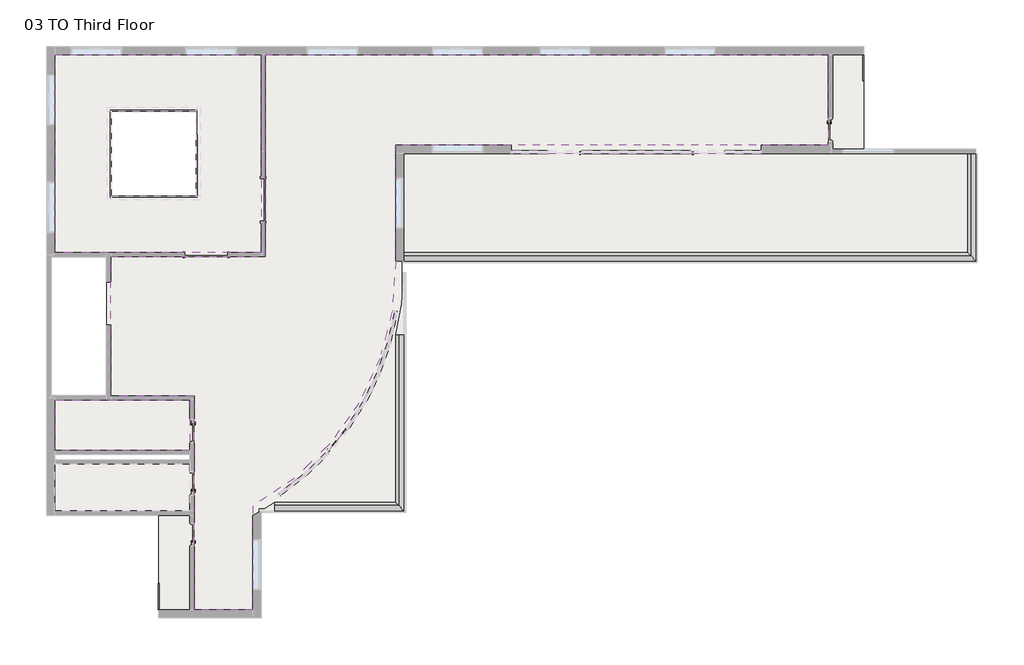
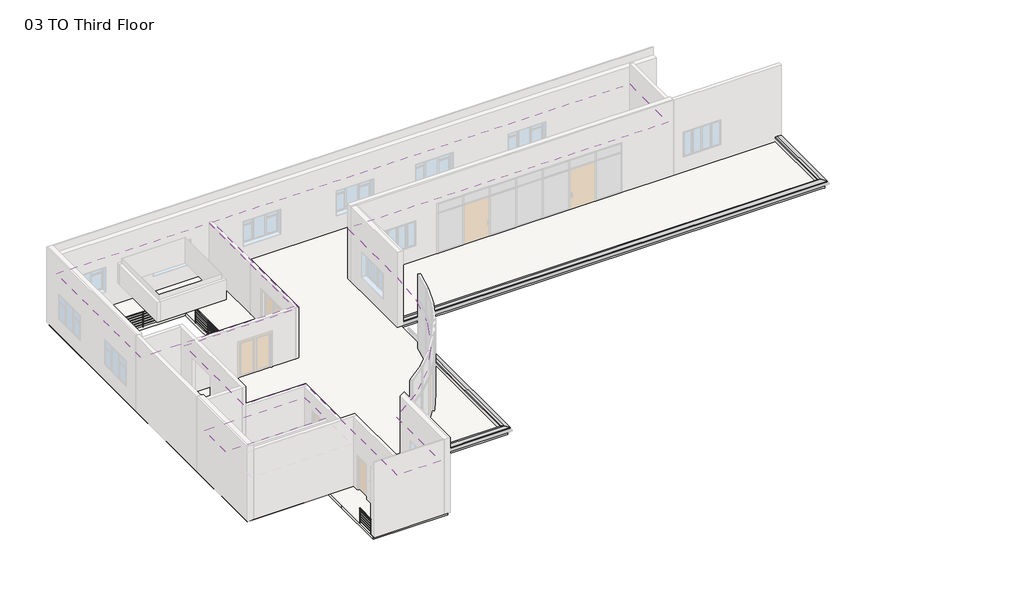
# One storey, part 3 of 3: 4 proxies, 3 coverings, 3 railings, 1 slab.
"""IFC4 building model written with IfcOpenShell, lengths in millimetres."""

from ifc_helpers import new_model, si_unit, point, frame, frame_2d, origin, place, context, project, spatial, polyline, circle_curve, ellipse_curve, trimmed, segment, composite_curve, outline, extrude, faceted_brep, element, save
from ifc_brep_helpers import plane_surface, cylinder_surface, advanced_brep

model = new_model("IFC4")

# Units and contexts
model_context = context("Model", 3, world=origin())
ifc_project = project(units=[si_unit("LENGTHUNIT", "METRE", prefix="MILLI")], contexts=[model_context])

# Site, building, storey
site = spatial("IfcSite", under=ifc_project)
building = spatial("IfcBuilding", under=site)
storey = spatial("IfcBuildingStorey", under=building, Name="03 TO Third Floor", Elevation=9144.0)

# Proxies
placement = place(None, origin())
element("IfcBuildingElementProxy", 1, Name="Wall Sweeps", at=placement, inside=storey, context=model_context, shape_type="Brep", body=[
    faceted_brep([(-4282.7273699, 106.1746638, 9410.7), (-4282.7273699, 334.7746638, 9448.8), (-4282.7273699, 461.7746638, 9410.7), (-4282.7273699, 461.7746638, 9347.2), (-4282.7273699, 106.1746638, 9347.2), (20101.2726301, 106.1746638, 9410.7), (20101.2726301, 106.1746638, 9347.2), (19745.6726301, 461.7746638, 9347.2), (19745.6726301, 461.7746638, 9410.7), (19872.6726301, 334.7746638, 9448.8)], [[[0, 1, 2, 3, 4]], [[5, 6, 7, 8, 9]], [[0, 4, 6, 5]], [[4, 3, 7, 6]], [[3, 2, 8, 7]], [[2, 1, 9, 8]], [[1, 0, 5, 9]]]),
])
element("IfcBuildingElementProxy", 2, Name="Wall Sweeps", at=placement, inside=storey, context=model_context, shape_type="Brep", body=[
    faceted_brep([(20101.2726301, 106.1746638, 9410.7), (19872.6726301, 334.7746638, 9448.8), (19745.6726301, 461.7746638, 9410.7), (19745.6726301, 461.7746638, 9347.2), (20101.2726301, 106.1746638, 9347.2), (20101.2726301, 4678.1746638, 9410.7), (20101.2726301, 4678.1746638, 9347.2), (19745.6726301, 4678.1746638, 9347.2), (19745.6726301, 4678.1746638, 9410.7), (19872.6726301, 4678.1746638, 9448.8), (20101.2726301, 461.7746638, 9347.2)], [[[0, 1, 2, 3, 4]], [[5, 6, 7, 8, 9]], [[0, 4, 10, 6, 5]], [[4, 3, 7, 6, 10]], [[3, 2, 8, 7]], [[2, 1, 9, 8]], [[1, 0, 5, 9]]]),
])
element("IfcBuildingElementProxy", 3, Name="Wall Sweeps", at=placement, inside=storey, context=model_context, shape_type="Brep", body=[
    faceted_brep([(-4282.7273699, -10561.8253362, 9410.7), (-4282.7273699, -10561.8253362, 9347.2), (-4638.3273699, -10206.2253362, 9347.2), (-4638.3273699, -10206.2253362, 9410.7), (-4511.3273699, -10333.2253362, 9448.8), (-9785.748781, -10561.8253362, 9410.7), (-9785.748781, -10333.2253362, 9448.8), (-9785.748781, -10206.2253362, 9410.7), (-9785.748781, -10206.2253362, 9347.2), (-9785.748781, -10561.8253362, 9347.2)], [[[0, 1, 2, 3, 4]], [[5, 6, 7, 8, 9]], [[1, 0, 5, 9]], [[2, 1, 9, 8]], [[3, 2, 8, 7]], [[4, 3, 7, 6]], [[0, 4, 6, 5]]]),
])
element("IfcBuildingElementProxy", 4, Name="Wall Sweeps", at=placement, inside=storey, context=model_context, shape_type="Brep", body=[
    faceted_brep([(-4282.7273699, -10561.8253362, 9410.7), (-4511.3273699, -10333.2253362, 9448.8), (-4638.3273699, -10206.2253362, 9410.7), (-4638.3273699, -10206.2253362, 9347.2), (-4282.7273699, -10561.8253362, 9347.2), (-4282.7273699, -3050.9908912, 9410.7), (-4282.7273699, -3050.9908912, 9347.2), (-4638.3273699, -3050.9908912, 9347.2), (-4638.3273699, -3050.9908912, 9410.7), (-4511.3273699, -3050.9908912, 9448.8), (-4282.7273699, -10206.2253362, 9347.2)], [[[0, 1, 2, 3, 4]], [[5, 6, 7, 8, 9]], [[1, 0, 5, 9]], [[2, 1, 9, 8]], [[3, 2, 8, 7]], [[4, 3, 7, 6, 10]], [[0, 4, 10, 6, 5]]]),
])

# Coverings
element("IfcCovering", 5, ObjectType="610mmx610mm ACT System", at=placement, inside=storey, context=model_context, shape_type="SweptSolid", body=[
    extrude(outline(polyline([(-19167.1273699, -7988.4878362), (-19167.1273699, -5837.4253362), (-16881.1273699, -5837.4253362), (-13407.6773699, -5837.4253362), (-13407.6773699, -7988.4878362), (-19167.1273699, -7988.4878362)])), frame((0.0, 0.0, 11582.4), z_axis=(0.0, 0.0, 1.0), x_axis=(1.0, 0.0, 0.0)), (0.0, 0.0, 1.0), 57.15),
])
element("IfcCovering", 6, ObjectType="GWB on Mtl. Stud", at=placement, inside=storey, context=model_context, shape_type="SweptSolid", body=[
    extrude(outline(composite_curve([segment(polyline([(-10194.5773699, 8894.5746638), (13802.0726301, 8894.5746638), (13802.0726301, 5033.7746638), (-4638.3273699, 5033.7746638), (-4638.3273699, 102.363521)]), True, "CONTINUOUS"), segment(trimmed(circle_curve(frame_2d((-16220.7273699, -147.8253362)), 11585.1018219), [point((-4638.3273699, 102.363521))], [point((-10734.3273699, -10351.4521063))], False, "CARTESIAN"), True, "CONTINUOUS"), segment(polyline([(-10734.3273699, -10351.4521063), (-10734.3273699, -14778.2253362), (-13223.5273699, -14778.2253362), (-13223.5273699, -10663.4253362), (-13223.5273699, -5653.2753362), (-16779.5273699, -5653.2753362), (-16779.5273699, 277.6246638), (-10194.5773699, 277.6246638), (-10194.5773699, 4770.2496638), (-10194.5773699, 8894.5746638)]), True, "CONTINUOUS")], self_intersect=False)), frame((0.0, 0.0, 12192.0), z_axis=(0.0, 0.0, 1.0), x_axis=(1.0, 0.0, 0.0)), (0.0, 0.0, 1.0), 85.725),
])
element("IfcCovering", 7, ObjectType="GWB on Mtl. Stud", at=placement, inside=storey, context=model_context, shape_type="SweptSolid", body=[
    extrude(outline(polyline([(-19167.1273699, 8894.5746638), (-10378.7273699, 8894.5746638), (-10378.7273699, 4770.2496638), (-10378.7273699, 461.7746638), (-16881.1273699, 461.7746638), (-19167.1273699, 461.7746638), (-19167.1273699, 8894.5746638)]), holes=[polyline([(-12972.7023699, 2700.1496638), (-12972.7023699, 6656.1996638), (-16928.7523699, 6656.1996638), (-16928.7523699, 2700.1496638), (-12972.7023699, 2700.1496638)])]), frame((0.0, 0.0, 12192.0), z_axis=(0.0, 0.0, 1.0), x_axis=(1.0, 0.0, 0.0)), (0.0, 0.0, 1.0), 85.725),
])

# Railings
element("IfcRailing", 8, ObjectType="Handrail - Pipe", at=placement, inside=storey, context=model_context, shape_type="SolidModel", body=[
    advanced_brep(
    [(-13140.9773699, 5488.9751825, 10039.35), (-13102.8773699, 5488.9751825, 10039.35), (-13140.9773699, 2868.4246638, 10039.35), (-13102.8773699, 2830.3246638, 10039.35), (-16760.4773699, 2868.4246638, 10039.35), (-16798.5773699, 2830.3246638, 10039.35), (-16760.4773699, 6487.9246638, 10039.35), (-16798.5773699, 6526.0246638, 10039.35), (-13121.9273699, 6487.9246638, 10039.35), (-13121.9273699, 6526.0246638, 10039.35)],
    [
        (0, 1, circle_curve(frame((-13121.9273699, 5488.9751825, 10039.35), z_axis=(0.0, 1.0, 0.0), x_axis=(1.0, 0.0, 0.0)), 19.05)),
        (1, 0, circle_curve(frame((-13121.9273699, 5488.9751825, 10039.35), z_axis=(0.0, 1.0, 0.0), x_axis=(1.0, 0.0, 0.0)), 19.05)),
        (0, 2),
        (2, 3, ellipse_curve(frame((-13121.9273699, 2849.3746638, 10039.35), z_axis=(0.7071067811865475, 0.7071067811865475, 0.0), x_axis=(-0.7071067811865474, 0.7071067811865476, 0.0)), 26.9407684, 19.05)),
        (3, 1),
        (3, 2, ellipse_curve(frame((-13121.9273699, 2849.3746638, 10039.35), z_axis=(0.7071067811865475, 0.7071067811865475, 0.0), x_axis=(-0.7071067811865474, 0.7071067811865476, 0.0)), 26.9407684, 19.05)),
        (2, 4),
        (4, 5, ellipse_curve(frame((-16779.5273699, 2849.3746638, 10039.35), z_axis=(0.7071067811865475, -0.7071067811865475, 0.0), x_axis=(0.7071067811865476, 0.7071067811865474, 0.0)), 26.9407684, 19.05)),
        (5, 3),
        (5, 4, ellipse_curve(frame((-16779.5273699, 2849.3746638, 10039.35), z_axis=(0.7071067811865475, -0.7071067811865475, 0.0), x_axis=(0.7071067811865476, 0.7071067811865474, 0.0)), 26.9407684, 19.05)),
        (4, 6),
        (6, 7, ellipse_curve(frame((-16779.5273699, 6506.9746638, 10039.35), z_axis=(-0.7071067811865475, -0.7071067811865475, 0.0), x_axis=(0.7071067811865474, -0.7071067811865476, 0.0)), 26.9407684, 19.05)),
        (7, 5),
        (7, 6, ellipse_curve(frame((-16779.5273699, 6506.9746638, 10039.35), z_axis=(-0.7071067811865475, -0.7071067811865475, 0.0), x_axis=(0.7071067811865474, -0.7071067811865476, 0.0)), 26.9407684, 19.05)),
        (8, 9, circle_curve(frame((-13121.9273699, 6506.9746638, 10039.35), z_axis=(1.0, 0.0, 0.0), x_axis=(0.0, 1.0, 0.0)), 19.05)),
        (9, 8, circle_curve(frame((-13121.9273699, 6506.9746638, 10039.35), z_axis=(1.0, 0.0, 0.0), x_axis=(0.0, 1.0, 0.0)), 19.05)),
        (6, 8),
        (9, 7),
    ],
    [
        plane_surface(frame((-13121.9273699, 5488.9751825, 10058.4), z_axis=(0.0, 1.0, 0.0), x_axis=(0.0, 0.0, -1.0))),
        cylinder_surface(frame((-13121.9273699, 5488.9751825, 10039.35), z_axis=(0.0, 1.0, 0.0), x_axis=(1.0, 0.0, 0.0)), 19.05),
        cylinder_surface(frame((-13121.9273699, 2849.3746638, 10039.35), z_axis=(1.0, 0.0, 0.0), x_axis=(0.0, -1.0, 0.0)), 19.05),
        cylinder_surface(frame((-16779.5273699, 2849.3746638, 10039.35), z_axis=(0.0, -1.0, 0.0), x_axis=(-1.0, 0.0, 0.0)), 19.05),
        plane_surface(frame((-13121.9273699, 6506.9746638, 10058.4), z_axis=(1.0, 0.0, 0.0), x_axis=(0.0, 1.0, 0.0))),
        cylinder_surface(frame((-16779.5273699, 6506.9746638, 10039.35), z_axis=(-1.0, 0.0, 0.0), x_axis=(0.0, 1.0, 0.0)), 19.05),
    ],
    [
        (0, [[1, 2]]),
        (1, [[-1, 3, 4, 5]]),
        (1, [[-2, -5, 6, -3]]),
        (2, [[-4, 7, 8, 9]]),
        (2, [[-6, -9, 10, -7]]),
        (3, [[-8, 11, 12, 13]]),
        (3, [[-10, -13, 14, -11]]),
        (4, [[15, 16]]),
        (5, [[-12, 17, -16, 18]]),
        (5, [[-14, -18, -15, -17]]),
    ],
),
    advanced_brep(
    [(-13109.2273699, 5488.9751825, 9893.3), (-13134.6273699, 5488.9751825, 9893.3), (-13109.2273699, 2836.6746638, 9893.3), (-13134.6273699, 2862.0746638, 9893.3), (-16792.2273699, 2836.6746638, 9893.3), (-16766.8273699, 2862.0746638, 9893.3), (-16792.2273699, 6519.6746638, 9893.3), (-16766.8273699, 6494.2746638, 9893.3), (-13121.9273699, 6519.6746638, 9893.3), (-13121.9273699, 6494.2746638, 9893.3)],
    [
        (0, 1, circle_curve(frame((-13121.9273699, 5488.9751825, 9893.3), z_axis=(0.0, 1.0, 0.0), x_axis=(-1.0, 0.0, 0.0)), 12.7)),
        (1, 0, circle_curve(frame((-13121.9273699, 5488.9751825, 9893.3), z_axis=(0.0, 1.0, 0.0), x_axis=(-1.0, 0.0, 0.0)), 12.7)),
        (0, 2),
        (2, 3, ellipse_curve(frame((-13121.9273699, 2849.3746638, 9893.3), z_axis=(0.7071067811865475, 0.7071067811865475, 0.0), x_axis=(-0.7071067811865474, 0.7071067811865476, 0.0)), 17.9605122, 12.7)),
        (3, 1),
        (3, 2, ellipse_curve(frame((-13121.9273699, 2849.3746638, 9893.3), z_axis=(0.7071067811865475, 0.7071067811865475, 0.0), x_axis=(-0.7071067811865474, 0.7071067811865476, 0.0)), 17.9605122, 12.7)),
        (2, 4),
        (4, 5, ellipse_curve(frame((-16779.5273699, 2849.3746638, 9893.3), z_axis=(0.7071067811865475, -0.7071067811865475, 0.0), x_axis=(0.7071067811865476, 0.7071067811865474, 0.0)), 17.9605122, 12.7)),
        (5, 3),
        (5, 4, ellipse_curve(frame((-16779.5273699, 2849.3746638, 9893.3), z_axis=(0.7071067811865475, -0.7071067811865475, 0.0), x_axis=(0.7071067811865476, 0.7071067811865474, 0.0)), 17.9605122, 12.7)),
        (4, 6),
        (6, 7, ellipse_curve(frame((-16779.5273699, 6506.9746638, 9893.3), z_axis=(-0.7071067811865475, -0.7071067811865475, 0.0), x_axis=(0.7071067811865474, -0.7071067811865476, 0.0)), 17.9605122, 12.7)),
        (7, 5),
        (7, 6, ellipse_curve(frame((-16779.5273699, 6506.9746638, 9893.3), z_axis=(-0.7071067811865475, -0.7071067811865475, 0.0), x_axis=(0.7071067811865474, -0.7071067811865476, 0.0)), 17.9605122, 12.7)),
        (8, 9, circle_curve(frame((-13121.9273699, 6506.9746638, 9893.3), z_axis=(1.0, 0.0, 0.0), x_axis=(0.0, -1.0, 0.0)), 12.7)),
        (9, 8, circle_curve(frame((-13121.9273699, 6506.9746638, 9893.3), z_axis=(1.0, 0.0, 0.0), x_axis=(0.0, -1.0, 0.0)), 12.7)),
        (6, 8),
        (9, 7),
    ],
    [
        plane_surface(frame((-13121.9273699, 5488.9751825, 9906.0), z_axis=(0.0, 1.0, 0.0), x_axis=(0.0, 0.0, -1.0))),
        cylinder_surface(frame((-13121.9273699, 5488.9751825, 9893.3), z_axis=(0.0, 1.0, 0.0), x_axis=(-1.0, 0.0, 0.0)), 12.7),
        cylinder_surface(frame((-13121.9273699, 2849.3746638, 9893.3), z_axis=(1.0, 0.0, 0.0), x_axis=(0.0, 1.0, 0.0)), 12.7),
        cylinder_surface(frame((-16779.5273699, 2849.3746638, 9893.3), z_axis=(0.0, -1.0, 0.0), x_axis=(1.0, 0.0, 0.0)), 12.7),
        plane_surface(frame((-13121.9273699, 6506.9746638, 9906.0), z_axis=(1.0, 0.0, 0.0), x_axis=(0.0, 1.0, 0.0))),
        cylinder_surface(frame((-16779.5273699, 6506.9746638, 9893.3), z_axis=(-1.0, 0.0, 0.0), x_axis=(0.0, -1.0, 0.0)), 12.7),
    ],
    [
        (0, [[1, 2]]),
        (1, [[-1, 3, 4, 5]]),
        (1, [[-2, -5, 6, -3]]),
        (2, [[-4, 7, 8, 9]]),
        (2, [[-6, -9, 10, -7]]),
        (3, [[-8, 11, 12, 13]]),
        (3, [[-10, -13, 14, -11]]),
        (4, [[15, 16]]),
        (5, [[-12, 17, -16, 18]]),
        (5, [[-14, -18, -15, -17]]),
    ],
),
    advanced_brep(
    [(-13109.2273699, 5488.9751825, 9740.9), (-13134.6273699, 5488.9751825, 9740.9), (-13109.2273699, 2836.6746638, 9740.9), (-13134.6273699, 2862.0746638, 9740.9), (-16792.2273699, 2836.6746638, 9740.9), (-16766.8273699, 2862.0746638, 9740.9), (-16792.2273699, 6519.6746638, 9740.9), (-16766.8273699, 6494.2746638, 9740.9), (-13121.9273699, 6519.6746638, 9740.9), (-13121.9273699, 6494.2746638, 9740.9)],
    [
        (0, 1, circle_curve(frame((-13121.9273699, 5488.9751825, 9740.9), z_axis=(0.0, 1.0, 0.0), x_axis=(-1.0, 0.0, 0.0)), 12.7)),
        (1, 0, circle_curve(frame((-13121.9273699, 5488.9751825, 9740.9), z_axis=(0.0, 1.0, 0.0), x_axis=(-1.0, 0.0, 0.0)), 12.7)),
        (0, 2),
        (2, 3, ellipse_curve(frame((-13121.9273699, 2849.3746638, 9740.9), z_axis=(0.7071067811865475, 0.7071067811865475, 0.0), x_axis=(-0.7071067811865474, 0.7071067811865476, 0.0)), 17.9605122, 12.7)),
        (3, 1),
        (3, 2, ellipse_curve(frame((-13121.9273699, 2849.3746638, 9740.9), z_axis=(0.7071067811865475, 0.7071067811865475, 0.0), x_axis=(-0.7071067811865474, 0.7071067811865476, 0.0)), 17.9605122, 12.7)),
        (2, 4),
        (4, 5, ellipse_curve(frame((-16779.5273699, 2849.3746638, 9740.9), z_axis=(0.7071067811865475, -0.7071067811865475, 0.0), x_axis=(0.7071067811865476, 0.7071067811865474, 0.0)), 17.9605122, 12.7)),
        (5, 3),
        (5, 4, ellipse_curve(frame((-16779.5273699, 2849.3746638, 9740.9), z_axis=(0.7071067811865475, -0.7071067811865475, 0.0), x_axis=(0.7071067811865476, 0.7071067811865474, 0.0)), 17.9605122, 12.7)),
        (4, 6),
        (6, 7, ellipse_curve(frame((-16779.5273699, 6506.9746638, 9740.9), z_axis=(-0.7071067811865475, -0.7071067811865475, 0.0), x_axis=(0.7071067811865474, -0.7071067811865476, 0.0)), 17.9605122, 12.7)),
        (7, 5),
        (7, 6, ellipse_curve(frame((-16779.5273699, 6506.9746638, 9740.9), z_axis=(-0.7071067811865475, -0.7071067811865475, 0.0), x_axis=(0.7071067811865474, -0.7071067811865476, 0.0)), 17.9605122, 12.7)),
        (8, 9, circle_curve(frame((-13121.9273699, 6506.9746638, 9740.9), z_axis=(1.0, 0.0, 0.0), x_axis=(0.0, -1.0, 0.0)), 12.7)),
        (9, 8, circle_curve(frame((-13121.9273699, 6506.9746638, 9740.9), z_axis=(1.0, 0.0, 0.0), x_axis=(0.0, -1.0, 0.0)), 12.7)),
        (6, 8),
        (9, 7),
    ],
    [
        plane_surface(frame((-13121.9273699, 5488.9751825, 9753.6), z_axis=(0.0, 1.0, 0.0), x_axis=(0.0, 0.0, -1.0))),
        cylinder_surface(frame((-13121.9273699, 5488.9751825, 9740.9), z_axis=(0.0, 1.0, 0.0), x_axis=(-1.0, 0.0, 0.0)), 12.7),
        cylinder_surface(frame((-13121.9273699, 2849.3746638, 9740.9), z_axis=(1.0, 0.0, 0.0), x_axis=(0.0, 1.0, 0.0)), 12.7),
        cylinder_surface(frame((-16779.5273699, 2849.3746638, 9740.9), z_axis=(0.0, -1.0, 0.0), x_axis=(1.0, 0.0, 0.0)), 12.7),
        plane_surface(frame((-13121.9273699, 6506.9746638, 9753.6), z_axis=(1.0, 0.0, 0.0), x_axis=(0.0, 1.0, 0.0))),
        cylinder_surface(frame((-16779.5273699, 6506.9746638, 9740.9), z_axis=(-1.0, 0.0, 0.0), x_axis=(0.0, -1.0, 0.0)), 12.7),
    ],
    [
        (0, [[1, 2]]),
        (1, [[-1, 3, 4, 5]]),
        (1, [[-2, -5, 6, -3]]),
        (2, [[-4, 7, 8, 9]]),
        (2, [[-6, -9, 10, -7]]),
        (3, [[-8, 11, 12, 13]]),
        (3, [[-10, -13, 14, -11]]),
        (4, [[15, 16]]),
        (5, [[-12, 17, -16, 18]]),
        (5, [[-14, -18, -15, -17]]),
    ],
),
    advanced_brep(
    [(-13109.2273699, 5488.9751825, 9588.5), (-13134.6273699, 5488.9751825, 9588.5), (-13109.2273699, 2836.6746638, 9588.5), (-13134.6273699, 2862.0746638, 9588.5), (-16792.2273699, 2836.6746638, 9588.5), (-16766.8273699, 2862.0746638, 9588.5), (-16792.2273699, 6519.6746638, 9588.5), (-16766.8273699, 6494.2746638, 9588.5), (-13121.9273699, 6519.6746638, 9588.5), (-13121.9273699, 6494.2746638, 9588.5)],
    [
        (0, 1, circle_curve(frame((-13121.9273699, 5488.9751825, 9588.5), z_axis=(0.0, 1.0, 0.0), x_axis=(-1.0, 0.0, 0.0)), 12.7)),
        (1, 0, circle_curve(frame((-13121.9273699, 5488.9751825, 9588.5), z_axis=(0.0, 1.0, 0.0), x_axis=(-1.0, 0.0, 0.0)), 12.7)),
        (0, 2),
        (2, 3, ellipse_curve(frame((-13121.9273699, 2849.3746638, 9588.5), z_axis=(0.7071067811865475, 0.7071067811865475, 0.0), x_axis=(-0.7071067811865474, 0.7071067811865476, 0.0)), 17.9605122, 12.7)),
        (3, 1),
        (3, 2, ellipse_curve(frame((-13121.9273699, 2849.3746638, 9588.5), z_axis=(0.7071067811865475, 0.7071067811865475, 0.0), x_axis=(-0.7071067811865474, 0.7071067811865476, 0.0)), 17.9605122, 12.7)),
        (2, 4),
        (4, 5, ellipse_curve(frame((-16779.5273699, 2849.3746638, 9588.5), z_axis=(0.7071067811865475, -0.7071067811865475, 0.0), x_axis=(0.7071067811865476, 0.7071067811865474, 0.0)), 17.9605122, 12.7)),
        (5, 3),
        (5, 4, ellipse_curve(frame((-16779.5273699, 2849.3746638, 9588.5), z_axis=(0.7071067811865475, -0.7071067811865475, 0.0), x_axis=(0.7071067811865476, 0.7071067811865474, 0.0)), 17.9605122, 12.7)),
        (4, 6),
        (6, 7, ellipse_curve(frame((-16779.5273699, 6506.9746638, 9588.5), z_axis=(-0.7071067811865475, -0.7071067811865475, 0.0), x_axis=(0.7071067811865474, -0.7071067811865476, 0.0)), 17.9605122, 12.7)),
        (7, 5),
        (7, 6, ellipse_curve(frame((-16779.5273699, 6506.9746638, 9588.5), z_axis=(-0.7071067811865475, -0.7071067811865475, 0.0), x_axis=(0.7071067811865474, -0.7071067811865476, 0.0)), 17.9605122, 12.7)),
        (8, 9, circle_curve(frame((-13121.9273699, 6506.9746638, 9588.5), z_axis=(1.0, 0.0, 0.0), x_axis=(0.0, -1.0, 0.0)), 12.7)),
        (9, 8, circle_curve(frame((-13121.9273699, 6506.9746638, 9588.5), z_axis=(1.0, 0.0, 0.0), x_axis=(0.0, -1.0, 0.0)), 12.7)),
        (6, 8),
        (9, 7),
    ],
    [
        plane_surface(frame((-13121.9273699, 5488.9751825, 9601.2), z_axis=(0.0, 1.0, 0.0), x_axis=(0.0, 0.0, -1.0))),
        cylinder_surface(frame((-13121.9273699, 5488.9751825, 9588.5), z_axis=(0.0, 1.0, 0.0), x_axis=(-1.0, 0.0, 0.0)), 12.7),
        cylinder_surface(frame((-13121.9273699, 2849.3746638, 9588.5), z_axis=(1.0, 0.0, 0.0), x_axis=(0.0, 1.0, 0.0)), 12.7),
        cylinder_surface(frame((-16779.5273699, 2849.3746638, 9588.5), z_axis=(0.0, -1.0, 0.0), x_axis=(1.0, 0.0, 0.0)), 12.7),
        plane_surface(frame((-13121.9273699, 6506.9746638, 9601.2), z_axis=(1.0, 0.0, 0.0), x_axis=(0.0, 1.0, 0.0))),
        cylinder_surface(frame((-16779.5273699, 6506.9746638, 9588.5), z_axis=(-1.0, 0.0, 0.0), x_axis=(0.0, -1.0, 0.0)), 12.7),
    ],
    [
        (0, [[1, 2]]),
        (1, [[-1, 3, 4, 5]]),
        (1, [[-2, -5, 6, -3]]),
        (2, [[-4, 7, 8, 9]]),
        (2, [[-6, -9, 10, -7]]),
        (3, [[-8, 11, 12, 13]]),
        (3, [[-10, -13, 14, -11]]),
        (4, [[15, 16]]),
        (5, [[-12, 17, -16, 18]]),
        (5, [[-14, -18, -15, -17]]),
    ],
),
    advanced_brep(
    [(-13109.2273699, 5488.9751825, 9436.1), (-13134.6273699, 5488.9751825, 9436.1), (-13109.2273699, 2836.6746638, 9436.1), (-13134.6273699, 2862.0746638, 9436.1), (-16792.2273699, 2836.6746638, 9436.1), (-16766.8273699, 2862.0746638, 9436.1), (-16792.2273699, 6519.6746638, 9436.1), (-16766.8273699, 6494.2746638, 9436.1), (-13121.9273699, 6519.6746638, 9436.1), (-13121.9273699, 6494.2746638, 9436.1)],
    [
        (0, 1, circle_curve(frame((-13121.9273699, 5488.9751825, 9436.1), z_axis=(0.0, 1.0, 0.0), x_axis=(-1.0, 0.0, 0.0)), 12.7)),
        (1, 0, circle_curve(frame((-13121.9273699, 5488.9751825, 9436.1), z_axis=(0.0, 1.0, 0.0), x_axis=(-1.0, 0.0, 0.0)), 12.7)),
        (0, 2),
        (2, 3, ellipse_curve(frame((-13121.9273699, 2849.3746638, 9436.1), z_axis=(0.7071067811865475, 0.7071067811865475, 0.0), x_axis=(-0.7071067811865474, 0.7071067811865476, 0.0)), 17.9605122, 12.7)),
        (3, 1),
        (3, 2, ellipse_curve(frame((-13121.9273699, 2849.3746638, 9436.1), z_axis=(0.7071067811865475, 0.7071067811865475, 0.0), x_axis=(-0.7071067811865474, 0.7071067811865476, 0.0)), 17.9605122, 12.7)),
        (2, 4),
        (4, 5, ellipse_curve(frame((-16779.5273699, 2849.3746638, 9436.1), z_axis=(0.7071067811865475, -0.7071067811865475, 0.0), x_axis=(0.7071067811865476, 0.7071067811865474, 0.0)), 17.9605122, 12.7)),
        (5, 3),
        (5, 4, ellipse_curve(frame((-16779.5273699, 2849.3746638, 9436.1), z_axis=(0.7071067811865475, -0.7071067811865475, 0.0), x_axis=(0.7071067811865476, 0.7071067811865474, 0.0)), 17.9605122, 12.7)),
        (4, 6),
        (6, 7, ellipse_curve(frame((-16779.5273699, 6506.9746638, 9436.1), z_axis=(-0.7071067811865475, -0.7071067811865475, 0.0), x_axis=(0.7071067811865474, -0.7071067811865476, 0.0)), 17.9605122, 12.7)),
        (7, 5),
        (7, 6, ellipse_curve(frame((-16779.5273699, 6506.9746638, 9436.1), z_axis=(-0.7071067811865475, -0.7071067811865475, 0.0), x_axis=(0.7071067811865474, -0.7071067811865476, 0.0)), 17.9605122, 12.7)),
        (8, 9, circle_curve(frame((-13121.9273699, 6506.9746638, 9436.1), z_axis=(1.0, 0.0, 0.0), x_axis=(0.0, -1.0, 0.0)), 12.7)),
        (9, 8, circle_curve(frame((-13121.9273699, 6506.9746638, 9436.1), z_axis=(1.0, 0.0, 0.0), x_axis=(0.0, -1.0, 0.0)), 12.7)),
        (6, 8),
        (9, 7),
    ],
    [
        plane_surface(frame((-13121.9273699, 5488.9751825, 9448.8), z_axis=(0.0, 1.0, 0.0), x_axis=(0.0, 0.0, -1.0))),
        cylinder_surface(frame((-13121.9273699, 5488.9751825, 9436.1), z_axis=(0.0, 1.0, 0.0), x_axis=(-1.0, 0.0, 0.0)), 12.7),
        cylinder_surface(frame((-13121.9273699, 2849.3746638, 9436.1), z_axis=(1.0, 0.0, 0.0), x_axis=(0.0, 1.0, 0.0)), 12.7),
        cylinder_surface(frame((-16779.5273699, 2849.3746638, 9436.1), z_axis=(0.0, -1.0, 0.0), x_axis=(1.0, 0.0, 0.0)), 12.7),
        plane_surface(frame((-13121.9273699, 6506.9746638, 9448.8), z_axis=(1.0, 0.0, 0.0), x_axis=(0.0, 1.0, 0.0))),
        cylinder_surface(frame((-16779.5273699, 6506.9746638, 9436.1), z_axis=(-1.0, 0.0, 0.0), x_axis=(0.0, -1.0, 0.0)), 12.7),
    ],
    [
        (0, [[1, 2]]),
        (1, [[-1, 3, 4, 5]]),
        (1, [[-2, -5, 6, -3]]),
        (2, [[-4, 7, 8, 9]]),
        (2, [[-6, -9, 10, -7]]),
        (3, [[-8, 11, 12, 13]]),
        (3, [[-10, -13, 14, -11]]),
        (4, [[15, 16]]),
        (5, [[-12, 17, -16, 18]]),
        (5, [[-14, -18, -15, -17]]),
    ],
),
    advanced_brep(
    [(-13109.2273699, 5488.9751825, 9283.7), (-13134.6273699, 5488.9751825, 9283.7), (-13109.2273699, 2836.6746638, 9283.7), (-13134.6273699, 2862.0746638, 9283.7), (-16792.2273699, 2836.6746638, 9283.7), (-16766.8273699, 2862.0746638, 9283.7), (-16792.2273699, 6519.6746638, 9283.7), (-16766.8273699, 6494.2746638, 9283.7), (-13121.9273699, 6519.6746638, 9283.7), (-13121.9273699, 6494.2746638, 9283.7)],
    [
        (0, 1, circle_curve(frame((-13121.9273699, 5488.9751825, 9283.7), z_axis=(0.0, 1.0, 0.0), x_axis=(-1.0, 0.0, 0.0)), 12.7)),
        (1, 0, circle_curve(frame((-13121.9273699, 5488.9751825, 9283.7), z_axis=(0.0, 1.0, 0.0), x_axis=(-1.0, 0.0, 0.0)), 12.7)),
        (0, 2),
        (2, 3, ellipse_curve(frame((-13121.9273699, 2849.3746638, 9283.7), z_axis=(0.7071067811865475, 0.7071067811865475, 0.0), x_axis=(-0.7071067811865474, 0.7071067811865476, 0.0)), 17.9605122, 12.7)),
        (3, 1),
        (3, 2, ellipse_curve(frame((-13121.9273699, 2849.3746638, 9283.7), z_axis=(0.7071067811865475, 0.7071067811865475, 0.0), x_axis=(-0.7071067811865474, 0.7071067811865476, 0.0)), 17.9605122, 12.7)),
        (2, 4),
        (4, 5, ellipse_curve(frame((-16779.5273699, 2849.3746638, 9283.7), z_axis=(0.7071067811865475, -0.7071067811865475, 0.0), x_axis=(0.7071067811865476, 0.7071067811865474, 0.0)), 17.9605122, 12.7)),
        (5, 3),
        (5, 4, ellipse_curve(frame((-16779.5273699, 2849.3746638, 9283.7), z_axis=(0.7071067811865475, -0.7071067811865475, 0.0), x_axis=(0.7071067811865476, 0.7071067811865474, 0.0)), 17.9605122, 12.7)),
        (4, 6),
        (6, 7, ellipse_curve(frame((-16779.5273699, 6506.9746638, 9283.7), z_axis=(-0.7071067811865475, -0.7071067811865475, 0.0), x_axis=(0.7071067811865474, -0.7071067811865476, 0.0)), 17.9605122, 12.7)),
        (7, 5),
        (7, 6, ellipse_curve(frame((-16779.5273699, 6506.9746638, 9283.7), z_axis=(-0.7071067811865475, -0.7071067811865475, 0.0), x_axis=(0.7071067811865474, -0.7071067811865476, 0.0)), 17.9605122, 12.7)),
        (8, 9, circle_curve(frame((-13121.9273699, 6506.9746638, 9283.7), z_axis=(1.0, 0.0, 0.0), x_axis=(0.0, -1.0, 0.0)), 12.7)),
        (9, 8, circle_curve(frame((-13121.9273699, 6506.9746638, 9283.7), z_axis=(1.0, 0.0, 0.0), x_axis=(0.0, -1.0, 0.0)), 12.7)),
        (6, 8),
        (9, 7),
    ],
    [
        plane_surface(frame((-13121.9273699, 5488.9751825, 9296.4), z_axis=(0.0, 1.0, 0.0), x_axis=(0.0, 0.0, -1.0))),
        cylinder_surface(frame((-13121.9273699, 5488.9751825, 9283.7), z_axis=(0.0, 1.0, 0.0), x_axis=(-1.0, 0.0, 0.0)), 12.7),
        cylinder_surface(frame((-13121.9273699, 2849.3746638, 9283.7), z_axis=(1.0, 0.0, 0.0), x_axis=(0.0, 1.0, 0.0)), 12.7),
        cylinder_surface(frame((-16779.5273699, 2849.3746638, 9283.7), z_axis=(0.0, -1.0, 0.0), x_axis=(1.0, 0.0, 0.0)), 12.7),
        plane_surface(frame((-13121.9273699, 6506.9746638, 9296.4), z_axis=(1.0, 0.0, 0.0), x_axis=(0.0, 1.0, 0.0))),
        cylinder_surface(frame((-16779.5273699, 6506.9746638, 9283.7), z_axis=(-1.0, 0.0, 0.0), x_axis=(0.0, -1.0, 0.0)), 12.7),
    ],
    [
        (0, [[1, 2]]),
        (1, [[-1, 3, 4, 5]]),
        (1, [[-2, -5, 6, -3]]),
        (2, [[-4, 7, 8, 9]]),
        (2, [[-6, -9, 10, -7]]),
        (3, [[-8, 11, 12, 13]]),
        (3, [[-10, -13, 14, -11]]),
        (4, [[15, 16]]),
        (5, [[-12, 17, -16, 18]]),
        (5, [[-14, -18, -15, -17]]),
    ],
),
    extrude(outline(composite_curve([segment(trimmed(circle_curve(frame_2d((-14341.1273699, 6506.9746638)), 12.7), [point((-14341.1273699, 6519.6746638))], [point((-14341.1273699, 6494.2746638))], False, "CARTESIAN"), True, "CONTINUOUS"), segment(trimmed(circle_curve(frame_2d((-14341.1273699, 6506.9746638)), 12.7), [point((-14341.1273699, 6494.2746638))], [point((-14341.1273699, 6519.6746638))], False, "CARTESIAN"), True, "CONTINUOUS")], self_intersect=False)), frame((0.0, 0.0, 9144.0), z_axis=(0.0, 0.0, 1.0), x_axis=(1.0, 0.0, 0.0)), (0.0, 0.0, 1.0), 876.3),
    extrude(outline(composite_curve([segment(trimmed(circle_curve(frame_2d((-15560.3273699, 6506.9746638)), 12.7), [point((-15560.3273699, 6519.6746638))], [point((-15560.3273699, 6494.2746638))], False, "CARTESIAN"), True, "CONTINUOUS"), segment(trimmed(circle_curve(frame_2d((-15560.3273699, 6506.9746638)), 12.7), [point((-15560.3273699, 6494.2746638))], [point((-15560.3273699, 6519.6746638))], False, "CARTESIAN"), True, "CONTINUOUS")], self_intersect=False)), frame((0.0, 0.0, 9144.0), z_axis=(0.0, 0.0, 1.0), x_axis=(1.0, 0.0, 0.0)), (0.0, 0.0, 1.0), 876.3),
    extrude(outline(composite_curve([segment(trimmed(circle_curve(frame_2d((-16779.5273699, 5287.7746638)), 12.7), [point((-16792.2273699, 5287.7746638))], [point((-16766.8273699, 5287.7746638))], False, "CARTESIAN"), True, "CONTINUOUS"), segment(trimmed(circle_curve(frame_2d((-16779.5273699, 5287.7746638)), 12.7), [point((-16766.8273699, 5287.7746638))], [point((-16792.2273699, 5287.7746638))], False, "CARTESIAN"), True, "CONTINUOUS")], self_intersect=False)), frame((0.0, 0.0, 9144.0), z_axis=(0.0, 0.0, 1.0), x_axis=(1.0, 0.0, 0.0)), (0.0, 0.0, 1.0), 876.3),
    extrude(outline(composite_curve([segment(trimmed(circle_curve(frame_2d((-16779.5273699, 4068.5746638)), 12.7), [point((-16792.2273699, 4068.5746638))], [point((-16766.8273699, 4068.5746638))], False, "CARTESIAN"), True, "CONTINUOUS"), segment(trimmed(circle_curve(frame_2d((-16779.5273699, 4068.5746638)), 12.7), [point((-16766.8273699, 4068.5746638))], [point((-16792.2273699, 4068.5746638))], False, "CARTESIAN"), True, "CONTINUOUS")], self_intersect=False)), frame((0.0, 0.0, 9144.0), z_axis=(0.0, 0.0, 1.0), x_axis=(1.0, 0.0, 0.0)), (0.0, 0.0, 1.0), 876.3),
    extrude(outline(composite_curve([segment(trimmed(circle_curve(frame_2d((-15560.3273699, 2849.3746638)), 12.7), [point((-15560.3273699, 2836.6746638))], [point((-15560.3273699, 2862.0746638))], False, "CARTESIAN"), True, "CONTINUOUS"), segment(trimmed(circle_curve(frame_2d((-15560.3273699, 2849.3746638)), 12.7), [point((-15560.3273699, 2862.0746638))], [point((-15560.3273699, 2836.6746638))], False, "CARTESIAN"), True, "CONTINUOUS")], self_intersect=False)), frame((0.0, 0.0, 9144.0), z_axis=(0.0, 0.0, 1.0), x_axis=(1.0, 0.0, 0.0)), (0.0, 0.0, 1.0), 876.3),
    extrude(outline(composite_curve([segment(trimmed(circle_curve(frame_2d((-14341.1273699, 2849.3746638)), 12.7), [point((-14341.1273699, 2836.6746638))], [point((-14341.1273699, 2862.0746638))], False, "CARTESIAN"), True, "CONTINUOUS"), segment(trimmed(circle_curve(frame_2d((-14341.1273699, 2849.3746638)), 12.7), [point((-14341.1273699, 2862.0746638))], [point((-14341.1273699, 2836.6746638))], False, "CARTESIAN"), True, "CONTINUOUS")], self_intersect=False)), frame((0.0, 0.0, 9144.0), z_axis=(0.0, 0.0, 1.0), x_axis=(1.0, 0.0, 0.0)), (0.0, 0.0, 1.0), 876.3),
    extrude(outline(composite_curve([segment(trimmed(circle_curve(frame_2d((-13121.9273699, 3050.5751825)), 12.7), [point((-13109.2273699, 3050.5751825))], [point((-13134.6273699, 3050.5751825))], False, "CARTESIAN"), True, "CONTINUOUS"), segment(trimmed(circle_curve(frame_2d((-13121.9273699, 3050.5751825)), 12.7), [point((-13134.6273699, 3050.5751825))], [point((-13109.2273699, 3050.5751825))], False, "CARTESIAN"), True, "CONTINUOUS")], self_intersect=False)), frame((0.0, 0.0, 9144.0), z_axis=(0.0, 0.0, 1.0), x_axis=(1.0, 0.0, 0.0)), (0.0, 0.0, 1.0), 876.3),
    extrude(outline(composite_curve([segment(trimmed(circle_curve(frame_2d((-13121.9273699, 4269.7751825)), 12.7), [point((-13109.2273699, 4269.7751825))], [point((-13134.6273699, 4269.7751825))], False, "CARTESIAN"), True, "CONTINUOUS"), segment(trimmed(circle_curve(frame_2d((-13121.9273699, 4269.7751825)), 12.7), [point((-13134.6273699, 4269.7751825))], [point((-13109.2273699, 4269.7751825))], False, "CARTESIAN"), True, "CONTINUOUS")], self_intersect=False)), frame((0.0, 0.0, 9144.0), z_axis=(0.0, 0.0, 1.0), x_axis=(1.0, 0.0, 0.0)), (0.0, 0.0, 1.0), 876.3),
    extrude(outline(composite_curve([segment(trimmed(circle_curve(frame_2d((-16779.5273699, 6506.9746638)), 12.7), [point((-16792.2273699, 6506.9746638))], [point((-16766.8273699, 6506.9746638))], False, "CARTESIAN"), True, "CONTINUOUS"), segment(trimmed(circle_curve(frame_2d((-16779.5273699, 6506.9746638)), 12.7), [point((-16766.8273699, 6506.9746638))], [point((-16792.2273699, 6506.9746638))], False, "CARTESIAN"), True, "CONTINUOUS")], self_intersect=False)), frame((0.0, 0.0, 9144.0), z_axis=(0.0, 0.0, 1.0), x_axis=(1.0, 0.0, 0.0)), (0.0, 0.0, 1.0), 876.3),
    extrude(outline(composite_curve([segment(trimmed(circle_curve(frame_2d((-16779.5273699, 2849.3746638)), 12.7), [point((-16779.5273699, 2836.6746638))], [point((-16779.5273699, 2862.0746638))], False, "CARTESIAN"), True, "CONTINUOUS"), segment(trimmed(circle_curve(frame_2d((-16779.5273699, 2849.3746638)), 12.7), [point((-16779.5273699, 2862.0746638))], [point((-16779.5273699, 2836.6746638))], False, "CARTESIAN"), True, "CONTINUOUS")], self_intersect=False)), frame((0.0, 0.0, 9144.0), z_axis=(0.0, 0.0, 1.0), x_axis=(1.0, 0.0, 0.0)), (0.0, 0.0, 1.0), 876.3),
    extrude(outline(composite_curve([segment(trimmed(circle_curve(frame_2d((-13121.9273699, 2849.3746638)), 12.7), [point((-13109.2273699, 2849.3746638))], [point((-13134.6273699, 2849.3746638))], False, "CARTESIAN"), True, "CONTINUOUS"), segment(trimmed(circle_curve(frame_2d((-13121.9273699, 2849.3746638)), 12.7), [point((-13134.6273699, 2849.3746638))], [point((-13109.2273699, 2849.3746638))], False, "CARTESIAN"), True, "CONTINUOUS")], self_intersect=False)), frame((0.0, 0.0, 9144.0), z_axis=(0.0, 0.0, 1.0), x_axis=(1.0, 0.0, 0.0)), (0.0, 0.0, 1.0), 876.3),
    extrude(outline(composite_curve([segment(trimmed(circle_curve(frame_2d((-13134.6273699, 6506.9746638)), 12.7), [point((-13134.6273699, 6519.6746638))], [point((-13134.6273699, 6494.2746638))], False, "CARTESIAN"), True, "CONTINUOUS"), segment(trimmed(circle_curve(frame_2d((-13134.6273699, 6506.9746638)), 12.7), [point((-13134.6273699, 6494.2746638))], [point((-13134.6273699, 6519.6746638))], False, "CARTESIAN"), True, "CONTINUOUS")], self_intersect=False)), frame((0.0, 0.0, 9144.0), z_axis=(0.0, 0.0, 1.0), x_axis=(1.0, 0.0, 0.0)), (0.0, 0.0, 1.0), 876.3),
    extrude(outline(composite_curve([segment(trimmed(circle_curve(frame_2d((-13121.9273699, 5476.2751825)), 12.7), [point((-13109.2273699, 5476.2751825))], [point((-13134.6273699, 5476.2751825))], False, "CARTESIAN"), True, "CONTINUOUS"), segment(trimmed(circle_curve(frame_2d((-13121.9273699, 5476.2751825)), 12.7), [point((-13134.6273699, 5476.2751825))], [point((-13109.2273699, 5476.2751825))], False, "CARTESIAN"), True, "CONTINUOUS")], self_intersect=False)), frame((0.0, 0.0, 9144.0), z_axis=(0.0, 0.0, 1.0), x_axis=(1.0, 0.0, 0.0)), (0.0, 0.0, 1.0), 876.3),
])
element("IfcRailing", 9, ObjectType="Handrail - Pipe", at=placement, inside=storey, context=model_context, shape_type="SweptSolid", body=[
    extrude(outline(composite_curve([segment(trimmed(circle_curve(frame_2d((10039.35, -14734.8273699)), 19.05), [point((10039.35, -14753.8773699))], [point((10039.35, -14715.7773699))], False, "CARTESIAN"), True, "CONTINUOUS"), segment(trimmed(circle_curve(frame_2d((10039.35, -14734.8273699)), 19.05), [point((10039.35, -14715.7773699))], [point((10039.35, -14753.8773699))], False, "CARTESIAN"), True, "CONTINUOUS")], self_intersect=False)), frame((0.0, -14790.9253362, 0.0), z_axis=(0.0, 1.0, 0.0), x_axis=(0.0, 0.0, 1.0)), (0.0, 0.0, 1.0), 1130.3),
    extrude(outline(composite_curve([segment(trimmed(circle_curve(frame_2d((9893.3, -14734.8273699)), 12.7), [point((9893.3, -14722.1273699))], [point((9893.3, -14747.5273699))], False, "CARTESIAN"), True, "CONTINUOUS"), segment(trimmed(circle_curve(frame_2d((9893.3, -14734.8273699)), 12.7), [point((9893.3, -14747.5273699))], [point((9893.3, -14722.1273699))], False, "CARTESIAN"), True, "CONTINUOUS")], self_intersect=False)), frame((0.0, -14790.9253362, 0.0), z_axis=(0.0, 1.0, 0.0), x_axis=(0.0, 0.0, 1.0)), (0.0, 0.0, 1.0), 1130.3),
    extrude(outline(composite_curve([segment(trimmed(circle_curve(frame_2d((9740.9, -14734.8273699)), 12.7), [point((9740.9, -14722.1273699))], [point((9740.9, -14747.5273699))], False, "CARTESIAN"), True, "CONTINUOUS"), segment(trimmed(circle_curve(frame_2d((9740.9, -14734.8273699)), 12.7), [point((9740.9, -14747.5273699))], [point((9740.9, -14722.1273699))], False, "CARTESIAN"), True, "CONTINUOUS")], self_intersect=False)), frame((0.0, -14790.9253362, 0.0), z_axis=(0.0, 1.0, 0.0), x_axis=(0.0, 0.0, 1.0)), (0.0, 0.0, 1.0), 1130.3),
    extrude(outline(composite_curve([segment(trimmed(circle_curve(frame_2d((9588.5, -14734.8273699)), 12.7), [point((9588.5, -14722.1273699))], [point((9588.5, -14747.5273699))], False, "CARTESIAN"), True, "CONTINUOUS"), segment(trimmed(circle_curve(frame_2d((9588.5, -14734.8273699)), 12.7), [point((9588.5, -14747.5273699))], [point((9588.5, -14722.1273699))], False, "CARTESIAN"), True, "CONTINUOUS")], self_intersect=False)), frame((0.0, -14790.9253362, 0.0), z_axis=(0.0, 1.0, 0.0), x_axis=(0.0, 0.0, 1.0)), (0.0, 0.0, 1.0), 1130.3),
    extrude(outline(composite_curve([segment(trimmed(circle_curve(frame_2d((9436.1, -14734.8273699)), 12.7), [point((9436.1, -14722.1273699))], [point((9436.1, -14747.5273699))], False, "CARTESIAN"), True, "CONTINUOUS"), segment(trimmed(circle_curve(frame_2d((9436.1, -14734.8273699)), 12.7), [point((9436.1, -14747.5273699))], [point((9436.1, -14722.1273699))], False, "CARTESIAN"), True, "CONTINUOUS")], self_intersect=False)), frame((0.0, -14790.9253362, 0.0), z_axis=(0.0, 1.0, 0.0), x_axis=(0.0, 0.0, 1.0)), (0.0, 0.0, 1.0), 1130.3),
    extrude(outline(composite_curve([segment(trimmed(circle_curve(frame_2d((9283.7, -14734.8273699)), 12.7), [point((9283.7, -14722.1273699))], [point((9283.7, -14747.5273699))], False, "CARTESIAN"), True, "CONTINUOUS"), segment(trimmed(circle_curve(frame_2d((9283.7, -14734.8273699)), 12.7), [point((9283.7, -14747.5273699))], [point((9283.7, -14722.1273699))], False, "CARTESIAN"), True, "CONTINUOUS")], self_intersect=False)), frame((0.0, -14790.9253362, 0.0), z_axis=(0.0, 1.0, 0.0), x_axis=(0.0, 0.0, 1.0)), (0.0, 0.0, 1.0), 1130.3),
    extrude(outline(composite_curve([segment(trimmed(circle_curve(frame_2d((-14734.8273699, -14778.2253362)), 12.7), [point((-14722.1273699, -14778.2253362))], [point((-14747.5273699, -14778.2253362))], False, "CARTESIAN"), True, "CONTINUOUS"), segment(trimmed(circle_curve(frame_2d((-14734.8273699, -14778.2253362)), 12.7), [point((-14747.5273699, -14778.2253362))], [point((-14722.1273699, -14778.2253362))], False, "CARTESIAN"), True, "CONTINUOUS")], self_intersect=False)), frame((0.0, 0.0, 9144.0), z_axis=(0.0, 0.0, 1.0), x_axis=(1.0, 0.0, 0.0)), (0.0, 0.0, 1.0), 876.3),
    extrude(outline(composite_curve([segment(trimmed(circle_curve(frame_2d((-14734.8273699, -13673.3253362)), 12.7), [point((-14722.1273699, -13673.3253362))], [point((-14747.5273699, -13673.3253362))], False, "CARTESIAN"), True, "CONTINUOUS"), segment(trimmed(circle_curve(frame_2d((-14734.8273699, -13673.3253362)), 12.7), [point((-14747.5273699, -13673.3253362))], [point((-14722.1273699, -13673.3253362))], False, "CARTESIAN"), True, "CONTINUOUS")], self_intersect=False)), frame((0.0, 0.0, 9144.0), z_axis=(0.0, 0.0, 1.0), x_axis=(1.0, 0.0, 0.0)), (0.0, 0.0, 1.0), 876.3),
])
element("IfcRailing", 10, ObjectType="Handrail - Pipe", at=placement, inside=storey, context=model_context, shape_type="SweptSolid", body=[
    extrude(outline(composite_curve([segment(trimmed(circle_curve(frame_2d((10039.35, 15307.0226301)), 19.05), [point((10039.35, 15326.0726301))], [point((10039.35, 15287.9726301))], False, "CARTESIAN"), True, "CONTINUOUS"), segment(trimmed(circle_curve(frame_2d((10039.35, 15307.0226301)), 19.05), [point((10039.35, 15287.9726301))], [point((10039.35, 15326.0726301))], False, "CARTESIAN"), True, "CONTINUOUS")], self_intersect=False)), frame((0.0, 7802.3746638, 0.0), z_axis=(0.0, 1.0, 0.0), x_axis=(0.0, 0.0, 1.0)), (0.0, 0.0, 1.0), 1092.2),
    extrude(outline(composite_curve([segment(trimmed(circle_curve(frame_2d((9893.3, 15307.0226301)), 12.7), [point((9893.3, 15294.3226301))], [point((9893.3, 15319.7226301))], False, "CARTESIAN"), True, "CONTINUOUS"), segment(trimmed(circle_curve(frame_2d((9893.3, 15307.0226301)), 12.7), [point((9893.3, 15319.7226301))], [point((9893.3, 15294.3226301))], False, "CARTESIAN"), True, "CONTINUOUS")], self_intersect=False)), frame((0.0, 7802.3746638, 0.0), z_axis=(0.0, 1.0, 0.0), x_axis=(0.0, 0.0, 1.0)), (0.0, 0.0, 1.0), 1092.2),
    extrude(outline(composite_curve([segment(trimmed(circle_curve(frame_2d((9740.9, 15307.0226301)), 12.7), [point((9740.9, 15294.3226301))], [point((9740.9, 15319.7226301))], False, "CARTESIAN"), True, "CONTINUOUS"), segment(trimmed(circle_curve(frame_2d((9740.9, 15307.0226301)), 12.7), [point((9740.9, 15319.7226301))], [point((9740.9, 15294.3226301))], False, "CARTESIAN"), True, "CONTINUOUS")], self_intersect=False)), frame((0.0, 7802.3746638, 0.0), z_axis=(0.0, 1.0, 0.0), x_axis=(0.0, 0.0, 1.0)), (0.0, 0.0, 1.0), 1092.2),
    extrude(outline(composite_curve([segment(trimmed(circle_curve(frame_2d((9588.5, 15307.0226301)), 12.7), [point((9588.5, 15294.3226301))], [point((9588.5, 15319.7226301))], False, "CARTESIAN"), True, "CONTINUOUS"), segment(trimmed(circle_curve(frame_2d((9588.5, 15307.0226301)), 12.7), [point((9588.5, 15319.7226301))], [point((9588.5, 15294.3226301))], False, "CARTESIAN"), True, "CONTINUOUS")], self_intersect=False)), frame((0.0, 7802.3746638, 0.0), z_axis=(0.0, 1.0, 0.0), x_axis=(0.0, 0.0, 1.0)), (0.0, 0.0, 1.0), 1092.2),
    extrude(outline(composite_curve([segment(trimmed(circle_curve(frame_2d((9436.1, 15307.0226301)), 12.7), [point((9436.1, 15294.3226301))], [point((9436.1, 15319.7226301))], False, "CARTESIAN"), True, "CONTINUOUS"), segment(trimmed(circle_curve(frame_2d((9436.1, 15307.0226301)), 12.7), [point((9436.1, 15319.7226301))], [point((9436.1, 15294.3226301))], False, "CARTESIAN"), True, "CONTINUOUS")], self_intersect=False)), frame((0.0, 7802.3746638, 0.0), z_axis=(0.0, 1.0, 0.0), x_axis=(0.0, 0.0, 1.0)), (0.0, 0.0, 1.0), 1092.2),
    extrude(outline(composite_curve([segment(trimmed(circle_curve(frame_2d((9283.7, 15307.0226301)), 12.7), [point((9283.7, 15294.3226301))], [point((9283.7, 15319.7226301))], False, "CARTESIAN"), True, "CONTINUOUS"), segment(trimmed(circle_curve(frame_2d((9283.7, 15307.0226301)), 12.7), [point((9283.7, 15319.7226301))], [point((9283.7, 15294.3226301))], False, "CARTESIAN"), True, "CONTINUOUS")], self_intersect=False)), frame((0.0, 7802.3746638, 0.0), z_axis=(0.0, 1.0, 0.0), x_axis=(0.0, 0.0, 1.0)), (0.0, 0.0, 1.0), 1092.2),
    extrude(outline(composite_curve([segment(trimmed(circle_curve(frame_2d((15307.0226301, 8881.8746638)), 12.7), [point((15294.3226301, 8881.8746638))], [point((15319.7226301, 8881.8746638))], False, "CARTESIAN"), True, "CONTINUOUS"), segment(trimmed(circle_curve(frame_2d((15307.0226301, 8881.8746638)), 12.7), [point((15319.7226301, 8881.8746638))], [point((15294.3226301, 8881.8746638))], False, "CARTESIAN"), True, "CONTINUOUS")], self_intersect=False)), frame((0.0, 0.0, 9144.0), z_axis=(0.0, 0.0, 1.0), x_axis=(1.0, 0.0, 0.0)), (0.0, 0.0, 1.0), 876.3),
    extrude(outline(composite_curve([segment(trimmed(circle_curve(frame_2d((15307.0226301, 7815.0746638)), 12.7), [point((15294.3226301, 7815.0746638))], [point((15319.7226301, 7815.0746638))], False, "CARTESIAN"), True, "CONTINUOUS"), segment(trimmed(circle_curve(frame_2d((15307.0226301, 7815.0746638)), 12.7), [point((15319.7226301, 7815.0746638))], [point((15294.3226301, 7815.0746638))], False, "CARTESIAN"), True, "CONTINUOUS")], self_intersect=False)), frame((0.0, 0.0, 9144.0), z_axis=(0.0, 0.0, 1.0), x_axis=(1.0, 0.0, 0.0)), (0.0, 0.0, 1.0), 876.3),
])

# Slab
element("IfcSlab", 11, ObjectType="Floor_CIP on Metal Deck", at=placement, inside=storey, context=model_context, shape_type="Brep", body=[
    faceted_brep([(19999.6726301, 4773.4246638, 8966.2), (19999.6726301, 196.6621638, 8966.2), (19745.6726301, 196.6621638, 8966.2), (-4384.3273699, 196.6621638, 8966.2), (-4384.3273699, 115.6996638, 8966.2), (-4384.3273699, -10460.2253362, 8966.2), (-4638.3273699, -10460.2253362, 8966.2), (-10480.3273699, -10460.2253362, 8966.2), (-10480.3273699, -10561.8253362, 8966.2), (-10480.3273699, -15032.2253362, 8966.2), (-14747.5273699, -15032.2253362, 8966.2), (-14747.5273699, -11879.332088, 8966.2), (-14747.5273699, -10561.8253362, 8966.2), (-19421.1273699, -10561.8253362, 8966.2), (-19421.1273699, 9148.5746638, 8966.2), (15326.0726301, 9148.5746638, 8966.2), (15326.0726301, 4773.4246638, 8966.2), (19745.6726301, 4773.4246638, 8966.2), (-13121.9273699, 6506.9746638, 8966.2), (-16779.5273699, 6506.9746638, 8966.2), (-16779.5273699, 2849.3746638, 8966.2), (-13121.9273699, 2849.3746638, 8966.2), (-19179.8273699, -8156.7628362, 8966.2), (-19179.8273699, -8394.8878362, 8966.2), (-13391.8023699, -8394.8878362, 8966.2), (-13391.8023699, -8156.7628362, 8966.2), (-16982.7273699, 258.5746638, 8966.2), (-19319.5273699, 258.5746638, 8966.2), (-19319.5273699, -5634.2253362, 8966.2), (-16982.7273699, -5634.2253362, 8966.2), (19999.6726301, 196.6621638, 9144.0), (19999.6726301, 4773.4246638, 9144.0), (19745.6726301, 4773.4246638, 9144.0), (15326.0726301, 4773.4246638, 9144.0), (15326.0726301, 9148.5746638, 9144.0), (-19421.1273699, 9148.5746638, 9144.0), (-19421.1273699, -10561.8253362, 9144.0), (-14747.5273699, -10561.8253362, 9144.0), (-14747.5273699, -11879.332088, 9144.0), (-14747.5273699, -15032.2253362, 9144.0), (-10480.3273699, -15032.2253362, 9144.0), (-10480.3273699, -10561.8253362, 9144.0), (-10480.3273699, -10485.6253362, 9144.0), (-10480.3273699, -10460.2253362, 9144.0), (-4638.3273699, -10460.2253362, 9144.0), (-4384.3273699, -10460.2253362, 9144.0), (-4384.3273699, 115.6996638, 9144.0), (-4384.3273699, 196.6621638, 9144.0), (19745.6726301, 196.6621638, 9144.0), (-16779.5273699, 6506.9746638, 9144.0), (-13121.9273699, 6506.9746638, 9144.0), (-13121.9273699, 2849.3746638, 9144.0), (-16779.5273699, 2849.3746638, 9144.0), (-19179.8273699, -8394.8878362, 9144.0), (-19179.8273699, -8156.7628362, 9144.0), (-13391.8023699, -8156.7628362, 9144.0), (-13391.8023699, -8394.8878362, 9144.0), (-19319.5273699, 258.5746638, 9144.0), (-16982.7273699, 258.5746638, 9144.0), (-16982.7273699, -5634.2253362, 9144.0), (-19319.5273699, -5634.2253362, 9144.0)], [[[0, 1, 2, 3, 4, 5, 6, 7, 8, 9, 10, 11, 12, 13, 14, 15, 16, 17], [18, 19, 20, 21], [22, 23, 24, 25], [26, 27, 28, 29]], [[30, 31, 32, 33, 34, 35, 36, 37, 38, 39, 40, 41, 42, 43, 44, 45, 46, 47, 48], [49, 50, 51, 52], [53, 54, 55, 56], [57, 58, 59, 60]], [[1, 0, 31, 30]], [[3, 2, 1, 30, 48, 47]], [[9, 8, 7, 43, 42, 41, 40]], [[10, 9, 40, 39]], [[14, 13, 36, 35]], [[15, 14, 35, 34]], [[5, 4, 3, 47, 46, 45]], [[7, 6, 5, 45, 44, 43]], [[18, 50, 49, 19]], [[19, 49, 52, 20]], [[20, 52, 51, 21]], [[50, 18, 21, 51]], [[11, 10, 39, 38]], [[12, 11, 38, 37]], [[13, 12, 37, 36]], [[16, 15, 34, 33]], [[0, 17, 16, 33, 32, 31]], [[22, 54, 53, 23]], [[23, 53, 56, 24]], [[24, 56, 55, 25]], [[54, 22, 25, 55]], [[26, 58, 57, 27]], [[27, 57, 60, 28]], [[28, 60, 59, 29]], [[58, 26, 29, 59]]]),
])

save(model, "model.ifc")
